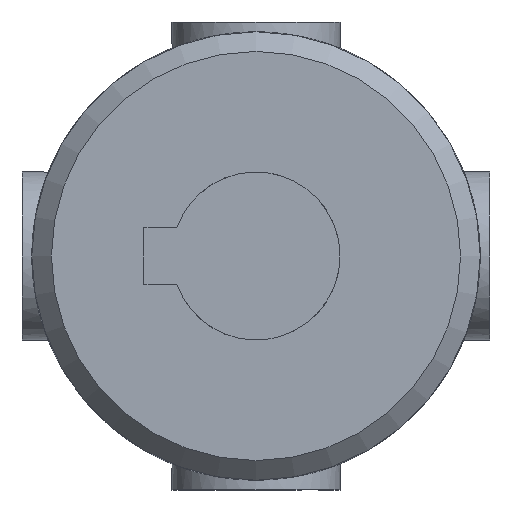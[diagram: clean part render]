
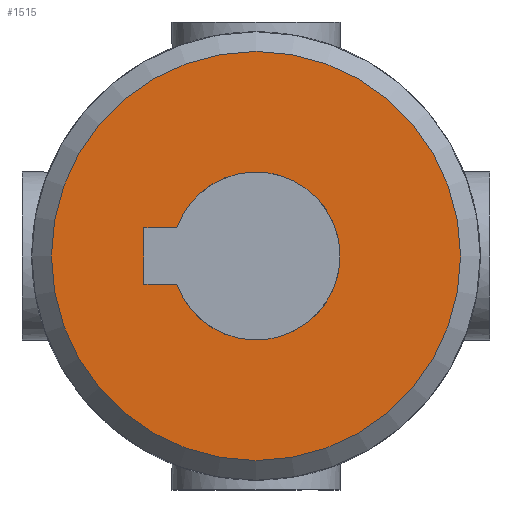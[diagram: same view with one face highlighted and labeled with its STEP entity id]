
A CAD part, front view. The second image highlights one B-rep face of the part: STEP entity #1515.
In plain terms, the highlighted planar face has unit normal (0, -1, 0).
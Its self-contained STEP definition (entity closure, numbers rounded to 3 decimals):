
#111=LINE('',#2906,#166);
#113=LINE('',#2914,#168);
#115=LINE('',#2920,#170);
#166=VECTOR('',#1996,1.172);
#168=VECTOR('',#2000,2.);
#170=VECTOR('',#2004,1.172);
#220=PLANE('',#1669);
#347=FACE_BOUND('',#561,.T.);
#428=FACE_OUTER_BOUND('',#560,.T.);
#560=EDGE_LOOP('',(#1321));
#561=EDGE_LOOP('',(#1322,#1323,#1324,#1325));
#644=CIRCLE('',#1661,3.);
#646=CIRCLE('',#1667,7.3);
#769=VERTEX_POINT('',#2895);
#770=VERTEX_POINT('',#2897);
#772=VERTEX_POINT('',#2905);
#774=VERTEX_POINT('',#2913);
#776=VERTEX_POINT('',#2924);
#954=EDGE_CURVE('',#770,#769,#644,.T.);
#957=EDGE_CURVE('',#772,#770,#111,.T.);
#960=EDGE_CURVE('',#774,#772,#113,.T.);
#963=EDGE_CURVE('',#769,#774,#115,.T.);
#965=EDGE_CURVE('',#776,#776,#646,.T.);
#1321=ORIENTED_EDGE('',*,*,#965,.F.);
#1322=ORIENTED_EDGE('',*,*,#954,.T.);
#1323=ORIENTED_EDGE('',*,*,#963,.T.);
#1324=ORIENTED_EDGE('',*,*,#960,.T.);
#1325=ORIENTED_EDGE('',*,*,#957,.T.);
#1515=ADVANCED_FACE('',(#428,#347),#220,.F.);
#1661=AXIS2_PLACEMENT_3D('',#2898,#1991,#1992);
#1667=AXIS2_PLACEMENT_3D('',#2925,#2009,#2010);
#1669=AXIS2_PLACEMENT_3D('',#3093,#2017,#2018);
#1991=DIRECTION('center_axis',(0.,1.,0.));
#1992=DIRECTION('ref_axis',(-0.333,0.,0.943));
#1996=DIRECTION('',(0.,0.,1.));
#2000=DIRECTION('',(-1.,0.,0.));
#2004=DIRECTION('',(0.,0.,-1.));
#2009=DIRECTION('center_axis',(0.,1.,0.));
#2010=DIRECTION('ref_axis',(1.,0.,0.));
#2017=DIRECTION('center_axis',(0.,1.,0.));
#2018=DIRECTION('ref_axis',(0.,0.,1.));
#2895=CARTESIAN_POINT('',(1.,-21.,-2.828));
#2897=CARTESIAN_POINT('',(-1.,-21.,-2.828));
#2898=CARTESIAN_POINT('Origin',(0.,-21.,0.));
#2905=CARTESIAN_POINT('',(-1.,-21.,-4.));
#2906=CARTESIAN_POINT('',(-1.,-21.,-2.));
#2913=CARTESIAN_POINT('',(1.,-21.,-4.));
#2914=CARTESIAN_POINT('',(0.5,-21.,-4.));
#2920=CARTESIAN_POINT('',(1.,-21.,-1.414));
#2924=CARTESIAN_POINT('',(-7.3,-21.,0.));
#2925=CARTESIAN_POINT('Origin',(0.,-21.,0.));
#3093=CARTESIAN_POINT('Origin',(0.,-21.,0.));
